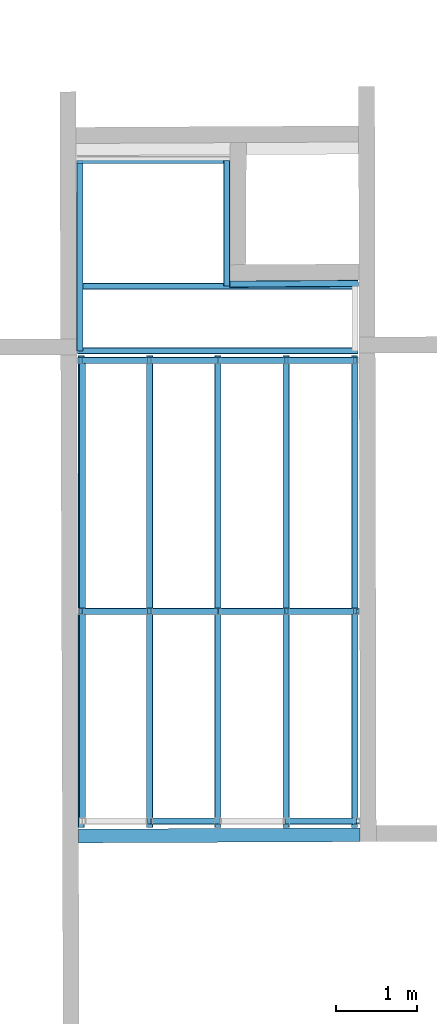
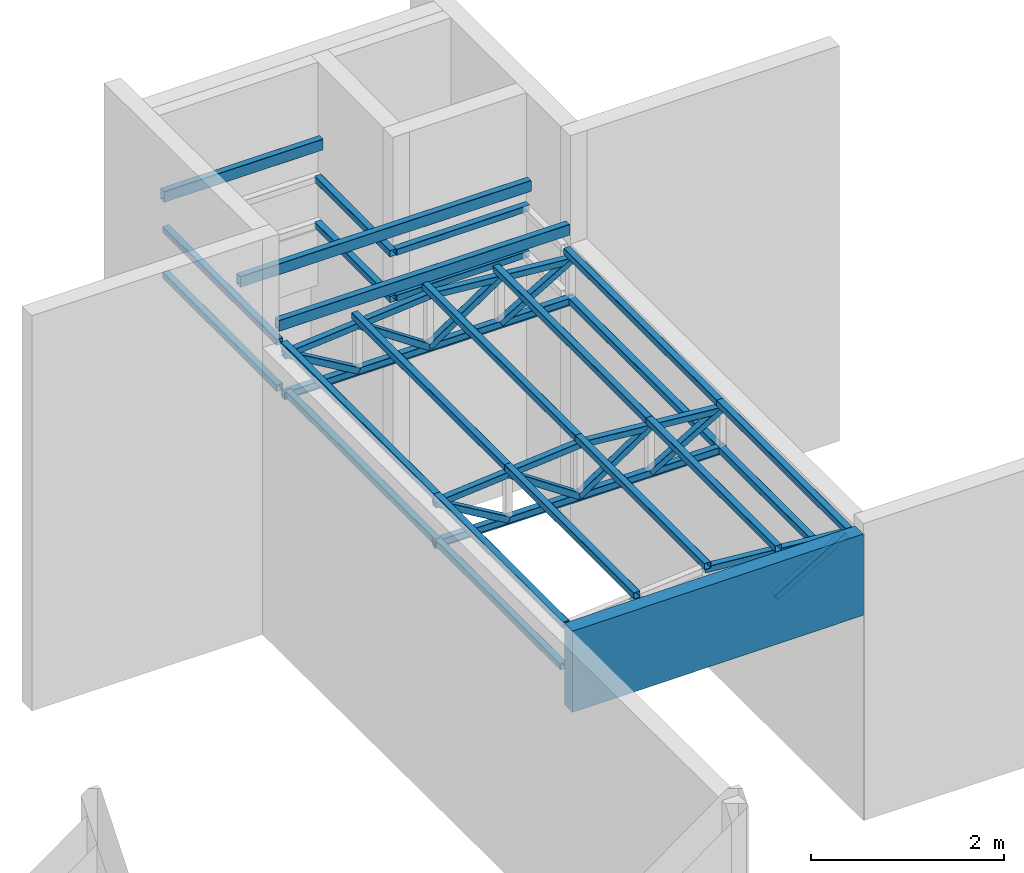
# One storey, part 4 of 9: 43 beams, 43 elements without a shape of their own.
"""IFC2X3 building model written with IfcOpenShell, lengths in millimetres."""

from ifc_helpers import new_model, si_unit, frame, origin_with_axes, origin_2d_with_axis, place, context, subcontext, project, spatial, rectangle, hollow_rectangle, u_section, extrude, material, type_object, element, aggregate, save


model = new_model("IFC2X3")

# Units and contexts
model_context = context("Model", 3, precision=1e-05, world=origin_with_axes())
body_context = subcontext(model_context, "Body", "Model", "MODEL_VIEW")
ifc_project = project(units=[si_unit("LENGTHUNIT", "METRE", prefix="MILLI"), si_unit("AREAUNIT", "SQUARE_METRE"), si_unit("VOLUMEUNIT", "CUBIC_METRE"), si_unit("MASSUNIT", "GRAM", prefix="KILO"), si_unit("TIMEUNIT", "SECOND"), si_unit("PLANEANGLEUNIT", "RADIAN"), si_unit("SOLIDANGLEUNIT", "STERADIAN"), si_unit("THERMODYNAMICTEMPERATUREUNIT", "DEGREE_CELSIUS"), si_unit("LUMINOUSINTENSITYUNIT", "LUMEN")], contexts=[model_context])

# Site, building, storey
site_placement = place(None, origin_with_axes())
site = spatial("IfcSite", under=ifc_project, at=site_placement, Name="01_26-05_PRO_BOULAZAC_CMA-FORMATION", CompositionType="ELEMENT")
building_placement = place(site_placement, origin_with_axes())
building = spatial("IfcBuilding", under=site, at=building_placement, Name="Undefined", CompositionType="ELEMENT")
storey_placement = place(building_placement, origin_with_axes())
storey = spatial("IfcBuildingStorey", under=building, at=storey_placement, Name="Undefined", CompositionType="ELEMENT", Elevation=0.0)

# Assembly, beam
assembly_1_placement = place(storey_placement, origin_with_axes())
assembly_1 = element("IfcElementAssembly", 1, at=assembly_1_placement, inside=storey, Name="OMEGA", AssemblyPlace="NOTDEFINED", PredefinedType="NOTDEFINED")
ifc_material_1 = material(Name="STEEL/S235JR")
beam_type_1 = type_object("IfcBeamType", Name="C40*30*2", PredefinedType="NOTDEFINED")
beam_1_placement = place(assembly_1_placement, frame((20776.849700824, 13770.0000000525, 2955.0), z_axis=(0.0, 1.0, 0.0), x_axis=(-1.0, 0.0, 0.0)))
beam_1 = element("IfcBeam", 2, at=beam_1_placement, type_object=beam_type_1, material=ifc_material_1, Name="OMEGA", context=body_context, shape_type="SweptSolid", body=[
    extrude(u_section(Depth=40.0, FlangeWidth=30.0, WebThickness=2.0, FlangeThickness=2.0, FilletRadius=3.0, at=origin_2d_with_axis()), frame((3479.99999999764, 0.0, 0.0), z_axis=(-1.0, 0.0, 0.0), x_axis=(0.0, -1.0, 0.0)), (0.0, 0.0, 1.0), 3480.0),
])
aggregate(assembly_1, [beam_1])

assembly_2_placement = place(storey_placement, origin_with_axes())
assembly_2 = element("IfcElementAssembly", 3, at=assembly_2_placement, inside=storey, Name="OMEGA", AssemblyPlace="NOTDEFINED", PredefinedType="NOTDEFINED")
beam_2_placement = place(assembly_2_placement, frame((20786.8497008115, 10660.0000000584, 2955.0), z_axis=(0.0, 1.0, 0.0), x_axis=(-1.0, 0.0, 0.0)))
beam_2 = element("IfcBeam", 4, at=beam_2_placement, type_object=beam_type_1, material=ifc_material_1, Name="OMEGA", context=body_context, shape_type="SweptSolid", body=[
    extrude(u_section(Depth=40.0, FlangeWidth=30.0, WebThickness=2.0, FlangeThickness=2.0, FilletRadius=3.0, at=origin_2d_with_axis()), frame((3479.99999999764, 0.0, 0.0), z_axis=(-1.0, 0.0, 0.0), x_axis=(0.0, -1.0, 0.0)), (0.0, 0.0, 1.0), 3480.0),
])
aggregate(assembly_2, [beam_2])

assembly_3_placement = place(storey_placement, origin_with_axes())
assembly_3 = element("IfcElementAssembly", 5, at=assembly_3_placement, inside=storey, Name="LISSE", AssemblyPlace="NOTDEFINED", PredefinedType="NOTDEFINED")
beam_type_2 = type_object("IfcBeamType", Name="TUBE-C-80*80*3", PredefinedType="NOTDEFINED")
beam_3_placement = place(assembly_3_placement, frame((20777.0939797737, 14725.5298231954, 3589.99999999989), z_axis=(-0.00610697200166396, 0.999981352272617, 0.0), x_axis=(-0.999981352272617, -0.00610697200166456, 0.0)))
beam_3 = element("IfcBeam", 6, at=beam_3_placement, type_object=beam_type_2, material=ifc_material_1, Name="LISSE", context=body_context, shape_type="SweptSolid", body=[
    extrude(hollow_rectangle(XDim=80.0, YDim=80.0, WallThickness=3.0, InnerFilletRadius=3.0, OuterFilletRadius=6.0, at=origin_2d_with_axis()), frame((1595.61294489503, 4.54747350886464e-13, 0.0), z_axis=(-1.0, 0.0, 0.0), x_axis=(0.0, -1.0, 0.0)), (0.0, 0.0, 1.0), 1595.61),
])
aggregate(assembly_3, [beam_3])

assembly_4_placement = place(storey_placement, origin_with_axes())
assembly_4 = element("IfcElementAssembly", 7, at=assembly_4_placement, inside=storey, Name="LISSE", AssemblyPlace="NOTDEFINED", PredefinedType="NOTDEFINED")
beam_4_placement = place(assembly_4_placement, frame((20777.0939797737, 14725.5298231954, 3009.99999999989), z_axis=(-0.00610697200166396, 0.999981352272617, 0.0), x_axis=(-0.999981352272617, -0.00610697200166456, 0.0)))
beam_4 = element("IfcBeam", 8, at=beam_4_placement, type_object=beam_type_2, material=ifc_material_1, Name="LISSE", context=body_context, shape_type="SweptSolid", body=[
    extrude(hollow_rectangle(XDim=80.0, YDim=80.0, WallThickness=3.0, InnerFilletRadius=3.0, OuterFilletRadius=6.0, at=origin_2d_with_axis()), frame((1595.61294489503, 4.54747350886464e-13, 0.0), z_axis=(-1.0, 0.0, 0.0), x_axis=(0.0, -1.0, 0.0)), (0.0, 0.0, 1.0), 1595.61),
])
aggregate(assembly_4, [beam_4])

assembly_5_placement = place(storey_placement, origin_with_axes())
assembly_5 = element("IfcElementAssembly", 9, at=assembly_5_placement, inside=storey, Name="LISSE", AssemblyPlace="NOTDEFINED", PredefinedType="NOTDEFINED")
beam_5_placement = place(assembly_5_placement, frame((19146.8497008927, 14690.0000000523, 3589.99999999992), z_axis=(1.0, 0.0, 0.0), x_axis=(0.0, 1.0, 0.0)))
beam_5 = element("IfcBeam", 10, at=beam_5_placement, type_object=beam_type_2, material=ifc_material_1, Name="LISSE", context=body_context, shape_type="SweptSolid", body=[
    extrude(hollow_rectangle(XDim=80.0, YDim=80.0, WallThickness=3.0, InnerFilletRadius=3.0, OuterFilletRadius=6.0, at=origin_2d_with_axis()), frame((1559.99999999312, 0.0, 0.0), z_axis=(-1.0, 0.0, 0.0), x_axis=(0.0, -1.0, 0.0)), (0.0, 0.0, 1.0), 1560.0),
])
aggregate(assembly_5, [beam_5])

assembly_6_placement = place(storey_placement, origin_with_axes())
assembly_6 = element("IfcElementAssembly", 11, at=assembly_6_placement, inside=storey, Name="LISSE", AssemblyPlace="NOTDEFINED", PredefinedType="NOTDEFINED")
beam_6_placement = place(assembly_6_placement, frame((17326.8497008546, 16250.0000000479, 3590.0), z_axis=(-1.0, 0.0, 0.0), x_axis=(0.0, -1.0, 0.0)))
beam_6 = element("IfcBeam", 12, at=beam_6_placement, type_object=beam_type_2, material=ifc_material_1, Name="LISSE", context=body_context, shape_type="SweptSolid", body=[
    extrude(hollow_rectangle(XDim=80.0, YDim=80.0, WallThickness=3.0, InnerFilletRadius=3.0, OuterFilletRadius=6.0, at=origin_2d_with_axis()), frame((2359.99999994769, 0.0, 0.0), z_axis=(-1.0, 0.0, 0.0), x_axis=(0.0, -1.0, 0.0)), (0.0, 0.0, 1.0), 2360.0),
])
aggregate(assembly_6, [beam_6])

assembly_7_placement = place(storey_placement, origin_with_axes())
assembly_7 = element("IfcElementAssembly", 13, at=assembly_7_placement, inside=storey, Name="LISSE", AssemblyPlace="NOTDEFINED", PredefinedType="NOTDEFINED")
beam_7_placement = place(assembly_7_placement, frame((19146.8497008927, 14690.0000000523, 3009.99999999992), z_axis=(1.0, 0.0, 0.0), x_axis=(0.0, 1.0, 0.0)))
beam_7 = element("IfcBeam", 14, at=beam_7_placement, type_object=beam_type_2, material=ifc_material_1, Name="LISSE", context=body_context, shape_type="SweptSolid", body=[
    extrude(hollow_rectangle(XDim=80.0, YDim=80.0, WallThickness=3.0, InnerFilletRadius=3.0, OuterFilletRadius=6.0, at=origin_2d_with_axis()), frame((1559.99999999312, 0.0, 0.0), z_axis=(-1.0, 0.0, 0.0), x_axis=(0.0, -1.0, 0.0)), (0.0, 0.0, 1.0), 1560.0),
])
aggregate(assembly_7, [beam_7])

assembly_8_placement = place(storey_placement, origin_with_axes())
assembly_8 = element("IfcElementAssembly", 15, at=assembly_8_placement, inside=storey, Name="LISSE", AssemblyPlace="NOTDEFINED", PredefinedType="NOTDEFINED")
beam_8_placement = place(assembly_8_placement, frame((17326.8497008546, 16250.0000000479, 3010.0), z_axis=(-1.0, 0.0, 0.0), x_axis=(0.0, -1.0, 0.0)))
beam_8 = element("IfcBeam", 16, at=beam_8_placement, type_object=beam_type_2, material=ifc_material_1, Name="LISSE", context=body_context, shape_type="SweptSolid", body=[
    extrude(hollow_rectangle(XDim=80.0, YDim=80.0, WallThickness=3.0, InnerFilletRadius=3.0, OuterFilletRadius=6.0, at=origin_2d_with_axis()), frame((2359.99999994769, 0.0, 0.0), z_axis=(-1.0, 0.0, 0.0), x_axis=(0.0, -1.0, 0.0)), (0.0, 0.0, 1.0), 2360.0),
])
aggregate(assembly_8, [beam_8])

assembly_9_placement = place(storey_placement, origin_with_axes())
assembly_9 = element("IfcElementAssembly", 17, at=assembly_9_placement, inside=storey, AssemblyPlace="NOTDEFINED", PredefinedType="NOTDEFINED")
beam_9_placement = place(assembly_9_placement, frame((19883.6151950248, 10660.0, 3664.08240023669), z_axis=(0.0, 0.0, 1.0), x_axis=(0.0, 1.0, 0.0)))
beam_9 = element("IfcBeam", 18, at=beam_9_placement, type_object=beam_type_2, material=ifc_material_1, Name="PANNE", context=body_context, shape_type="SweptSolid", body=[
    extrude(hollow_rectangle(XDim=80.0, YDim=80.0, WallThickness=3.0, InnerFilletRadius=3.0, OuterFilletRadius=6.0, at=origin_2d_with_axis()), frame((3170.0, 0.0, 0.0), z_axis=(-1.0, 0.0, 0.0), x_axis=(0.0, -1.0, 0.0)), (0.0, 0.0, 1.0), 3170.0),
])
aggregate(assembly_9, [beam_9])

assembly_10_placement = place(storey_placement, origin_with_axes())
assembly_10 = element("IfcElementAssembly", 19, at=assembly_10_placement, inside=storey, AssemblyPlace="NOTDEFINED", PredefinedType="NOTDEFINED")
beam_10_placement = place(assembly_10_placement, frame((19883.6151950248, 7980.00000000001, 3664.08240023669), z_axis=(0.0, 0.0, 1.0), x_axis=(0.0, 1.0, 0.0)))
beam_10 = element("IfcBeam", 20, at=beam_10_placement, type_object=beam_type_2, material=ifc_material_1, Name="PANNE", context=body_context, shape_type="SweptSolid", body=[
    extrude(hollow_rectangle(XDim=80.0, YDim=80.0, WallThickness=3.0, InnerFilletRadius=3.0, OuterFilletRadius=6.0, at=origin_2d_with_axis()), frame((2680.0, 0.0, 0.0), z_axis=(-1.0, 0.0, 0.0), x_axis=(0.0, -1.0, 0.0)), (0.0, 0.0, 1.0), 2680.0),
])
aggregate(assembly_10, [beam_10])

assembly_11_placement = place(storey_placement, origin_with_axes())
assembly_11 = element("IfcElementAssembly", 21, at=assembly_11_placement, inside=storey, AssemblyPlace="NOTDEFINED", PredefinedType="NOTDEFINED")
beam_11_placement = place(assembly_11_placement, frame((18190.0842080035, 10660.0, 3664.08238662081), z_axis=(0.0, 0.0, 1.0), x_axis=(0.0, 1.0, 0.0)))
beam_11 = element("IfcBeam", 22, at=beam_11_placement, type_object=beam_type_2, material=ifc_material_1, Name="PANNE", context=body_context, shape_type="SweptSolid", body=[
    extrude(hollow_rectangle(XDim=80.0, YDim=80.0, WallThickness=3.0, InnerFilletRadius=3.0, OuterFilletRadius=6.0, at=origin_2d_with_axis()), frame((3170.0, 0.0, 0.0), z_axis=(-1.0, 0.0, 0.0), x_axis=(0.0, -1.0, 0.0)), (0.0, 0.0, 1.0), 3170.0),
])
aggregate(assembly_11, [beam_11])

assembly_12_placement = place(storey_placement, origin_with_axes())
assembly_12 = element("IfcElementAssembly", 23, at=assembly_12_placement, inside=storey, AssemblyPlace="NOTDEFINED", PredefinedType="NOTDEFINED")
beam_12_placement = place(assembly_12_placement, frame((18190.0842080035, 7980.0, 3664.08238662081), z_axis=(0.0, 0.0, 1.0), x_axis=(0.0, 1.0, 0.0)))
beam_12 = element("IfcBeam", 24, at=beam_12_placement, type_object=beam_type_2, material=ifc_material_1, Name="PANNE", context=body_context, shape_type="SweptSolid", body=[
    extrude(hollow_rectangle(XDim=80.0, YDim=80.0, WallThickness=3.0, InnerFilletRadius=3.0, OuterFilletRadius=6.0, at=origin_2d_with_axis()), frame((2680.0, 0.0, 0.0), z_axis=(-1.0, 0.0, 0.0), x_axis=(0.0, -1.0, 0.0)), (0.0, 0.0, 1.0), 2680.0),
])
aggregate(assembly_12, [beam_12])

assembly_13_placement = place(storey_placement, origin_with_axes())
assembly_13 = element("IfcElementAssembly", 25, at=assembly_13_placement, inside=storey, Name="LISSE", AssemblyPlace="NOTDEFINED", PredefinedType="NOTDEFINED")
beam_13_placement = place(assembly_13_placement, frame((20736.8497009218, 10660.0, 3010.0), z_axis=(1.0, 0.0, 0.0), x_axis=(0.0, 1.0, 0.0)))
beam_13 = element("IfcBeam", 26, at=beam_13_placement, type_object=beam_type_2, material=ifc_material_1, Name="LISSE", context=body_context, shape_type="SweptSolid", body=[
    extrude(hollow_rectangle(XDim=80.0, YDim=80.0, WallThickness=3.0, InnerFilletRadius=3.0, OuterFilletRadius=6.0, at=origin_2d_with_axis()), frame((3110.0, 0.0, 0.0), z_axis=(-1.0, 0.0, 0.0), x_axis=(0.0, -1.0, 0.0)), (0.0, 0.0, 1.0), 3110.0),
])
aggregate(assembly_13, [beam_13])

assembly_14_placement = place(storey_placement, origin_with_axes())
assembly_14 = element("IfcElementAssembly", 27, at=assembly_14_placement, inside=storey, Name="LISSE", AssemblyPlace="NOTDEFINED", PredefinedType="NOTDEFINED")
beam_14_placement = place(assembly_14_placement, frame((20736.8497009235, 8060.00000000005, 3010.0), z_axis=(1.0, 0.0, 0.0), x_axis=(0.0, 1.0, 0.0)))
beam_14 = element("IfcBeam", 28, at=beam_14_placement, type_object=beam_type_2, material=ifc_material_1, Name="LISSE", context=body_context, shape_type="SweptSolid", body=[
    extrude(hollow_rectangle(XDim=80.0, YDim=80.0, WallThickness=3.0, InnerFilletRadius=3.0, OuterFilletRadius=6.0, at=origin_2d_with_axis()), frame((2600.0, 0.0, 0.0), z_axis=(-1.0, 0.0, 0.0), x_axis=(0.0, -1.0, 0.0)), (0.0, 0.0, 1.0), 2600.0),
])
aggregate(assembly_14, [beam_14])

assembly_15_placement = place(storey_placement, origin_with_axes())
assembly_15 = element("IfcElementAssembly", 29, at=assembly_15_placement, inside=storey, Name="LISSE", AssemblyPlace="NOTDEFINED", PredefinedType="NOTDEFINED")
beam_15_placement = place(assembly_15_placement, frame((17356.8497009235, 10660.0, 3010.0), z_axis=(-1.0, 0.0, 0.0), x_axis=(0.0, -1.0, 0.0)))
beam_15 = element("IfcBeam", 30, at=beam_15_placement, type_object=beam_type_2, material=ifc_material_1, Name="LISSE", context=body_context, shape_type="SweptSolid", body=[
    extrude(hollow_rectangle(XDim=80.0, YDim=80.0, WallThickness=3.0, InnerFilletRadius=3.0, OuterFilletRadius=6.0, at=origin_2d_with_axis()), frame((2600.0, 0.0, 0.0), z_axis=(-1.0, 0.0, 0.0), x_axis=(0.0, -1.0, 0.0)), (0.0, 0.0, 1.0), 2600.0),
])
aggregate(assembly_15, [beam_15])

assembly_16_placement = place(storey_placement, origin_with_axes())
assembly_16 = element("IfcElementAssembly", 31, at=assembly_16_placement, inside=storey, Name="LISSE", AssemblyPlace="NOTDEFINED", PredefinedType="NOTDEFINED")
beam_16_placement = place(assembly_16_placement, frame((17356.8497009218, 13769.9999999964, 3010.0), z_axis=(-1.0, 0.0, 0.0), x_axis=(0.0, -1.0, 0.0)))
beam_16 = element("IfcBeam", 32, at=beam_16_placement, type_object=beam_type_2, material=ifc_material_1, Name="LISSE", context=body_context, shape_type="SweptSolid", body=[
    extrude(hollow_rectangle(XDim=80.0, YDim=80.0, WallThickness=3.0, InnerFilletRadius=3.0, OuterFilletRadius=6.0, at=origin_2d_with_axis()), frame((3110.0, 0.0, 0.0), z_axis=(-1.0, 0.0, 0.0), x_axis=(0.0, -1.0, 0.0)), (0.0, 0.0, 1.0), 3110.0),
])
aggregate(assembly_16, [beam_16])

assembly_17_placement = place(storey_placement, origin_with_axes())
assembly_17 = element("IfcElementAssembly", 33, at=assembly_17_placement, inside=storey, AssemblyPlace="NOTDEFINED", PredefinedType="NOTDEFINED")
beam_17_placement = place(assembly_17_placement, frame((20730.3806891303, 10660.0, 3590.00002715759), z_axis=(0.0, 0.0, 1.0), x_axis=(0.0, 1.0, 0.0)))
beam_17 = element("IfcBeam", 34, at=beam_17_placement, type_object=beam_type_2, material=ifc_material_1, Name="PANNE", context=body_context, shape_type="SweptSolid", body=[
    extrude(hollow_rectangle(XDim=80.0, YDim=80.0, WallThickness=3.0, InnerFilletRadius=3.0, OuterFilletRadius=6.0, at=origin_2d_with_axis()), frame((3170.0, 0.0, 0.0), z_axis=(-1.0, 0.0, 0.0), x_axis=(0.0, -1.0, 0.0)), (0.0, 0.0, 1.0), 3170.0),
])
aggregate(assembly_17, [beam_17])

assembly_18_placement = place(storey_placement, origin_with_axes())
assembly_18 = element("IfcElementAssembly", 35, at=assembly_18_placement, inside=storey, AssemblyPlace="NOTDEFINED", PredefinedType="NOTDEFINED")
beam_18_placement = place(assembly_18_placement, frame((20730.3806891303, 7980.0, 3590.00002715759), z_axis=(0.0, 0.0, 1.0), x_axis=(0.0, 1.0, 0.0)))
beam_18 = element("IfcBeam", 36, at=beam_18_placement, type_object=beam_type_2, material=ifc_material_1, Name="PANNE", context=body_context, shape_type="SweptSolid", body=[
    extrude(hollow_rectangle(XDim=80.0, YDim=80.0, WallThickness=3.0, InnerFilletRadius=3.0, OuterFilletRadius=6.0, at=origin_2d_with_axis()), frame((2680.0, 0.0, 0.0), z_axis=(-1.0, 0.0, 0.0), x_axis=(0.0, -1.0, 0.0)), (0.0, 0.0, 1.0), 2680.0),
])
aggregate(assembly_18, [beam_18])

assembly_19_placement = place(storey_placement, origin_with_axes())
assembly_19 = element("IfcElementAssembly", 37, at=assembly_19_placement, inside=storey, AssemblyPlace="NOTDEFINED", PredefinedType="NOTDEFINED")
beam_19_placement = place(assembly_19_placement, frame((17343.3187150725, 10660.0, 3590.0), z_axis=(0.0, 0.0, 1.0), x_axis=(0.0, 1.0, 0.0)))
beam_19 = element("IfcBeam", 38, at=beam_19_placement, type_object=beam_type_2, material=ifc_material_1, Name="PANNE", context=body_context, shape_type="SweptSolid", body=[
    extrude(hollow_rectangle(XDim=80.0, YDim=80.0, WallThickness=3.0, InnerFilletRadius=3.0, OuterFilletRadius=6.0, at=origin_2d_with_axis()), frame((3170.0, 0.0, 0.0), z_axis=(-1.0, 0.0, 0.0), x_axis=(0.0, -1.0, 0.0)), (0.0, 0.0, 1.0), 3170.0),
])
aggregate(assembly_19, [beam_19])

assembly_20_placement = place(storey_placement, origin_with_axes())
assembly_20 = element("IfcElementAssembly", 39, at=assembly_20_placement, inside=storey, AssemblyPlace="NOTDEFINED", PredefinedType="NOTDEFINED")
beam_20_placement = place(assembly_20_placement, frame((17343.3187150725, 7980.0, 3590.0), z_axis=(0.0, 0.0, 1.0), x_axis=(0.0, 1.0, 0.0)))
beam_20 = element("IfcBeam", 40, at=beam_20_placement, type_object=beam_type_2, material=ifc_material_1, Name="PANNE", context=body_context, shape_type="SweptSolid", body=[
    extrude(hollow_rectangle(XDim=80.0, YDim=80.0, WallThickness=3.0, InnerFilletRadius=3.0, OuterFilletRadius=6.0, at=origin_2d_with_axis()), frame((2680.0, 0.0, 0.0), z_axis=(-1.0, 0.0, 0.0), x_axis=(0.0, -1.0, 0.0)), (0.0, 0.0, 1.0), 2680.0),
])
aggregate(assembly_20, [beam_20])

assembly_21_placement = place(storey_placement, origin_with_axes())
assembly_21 = element("IfcElementAssembly", 41, at=assembly_21_placement, inside=storey, AssemblyPlace="NOTDEFINED", PredefinedType="NOTDEFINED")
beam_21_placement = place(assembly_21_placement, frame((19036.8497009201, 10660.0, 3738.16477324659), z_axis=(0.0, 0.0, 1.0), x_axis=(0.0, 1.0, 0.0)))
beam_21 = element("IfcBeam", 42, at=beam_21_placement, type_object=beam_type_2, material=ifc_material_1, Name="PANNE", context=body_context, shape_type="SweptSolid", body=[
    extrude(hollow_rectangle(XDim=80.0, YDim=80.0, WallThickness=3.0, InnerFilletRadius=3.0, OuterFilletRadius=6.0, at=origin_2d_with_axis()), frame((3170.0, 0.0, 0.0), z_axis=(-1.0, 0.0, 0.0), x_axis=(0.0, -1.0, 0.0)), (0.0, 0.0, 1.0), 3170.0),
])
aggregate(assembly_21, [beam_21])

assembly_22_placement = place(storey_placement, origin_with_axes())
assembly_22 = element("IfcElementAssembly", 43, at=assembly_22_placement, inside=storey, AssemblyPlace="NOTDEFINED", PredefinedType="NOTDEFINED")
beam_22_placement = place(assembly_22_placement, frame((19036.8497009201, 7980.0, 3738.16477324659), z_axis=(0.0, 0.0, 1.0), x_axis=(0.0, 1.0, 0.0)))
beam_22 = element("IfcBeam", 44, at=beam_22_placement, type_object=beam_type_2, material=ifc_material_1, Name="PANNE", context=body_context, shape_type="SweptSolid", body=[
    extrude(hollow_rectangle(XDim=80.0, YDim=80.0, WallThickness=3.0, InnerFilletRadius=3.0, OuterFilletRadius=6.0, at=origin_2d_with_axis()), frame((2680.0, 0.0, 0.0), z_axis=(-1.0, 0.0, 0.0), x_axis=(0.0, -1.0, 0.0)), (0.0, 0.0, 1.0), 2680.0),
])
aggregate(assembly_22, [beam_22])

assembly_23_placement = place(storey_placement, origin_with_axes())
assembly_23 = element("IfcElementAssembly", 45, at=assembly_23_placement, inside=storey, Name="TREILLIS", AssemblyPlace="NOTDEFINED", PredefinedType="NOTDEFINED")
beam_23_placement = place(assembly_23_placement, frame((17296.8497008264, 13770.0000000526, 3010.0), z_axis=(0.0, 0.0, 1.0), x_axis=(1.0, 0.0, 0.0)))
beam_23 = element("IfcBeam", 46, at=beam_23_placement, type_object=beam_type_2, material=ifc_material_1, Name="TREILLIS", context=body_context, shape_type="SweptSolid", body=[
    extrude(hollow_rectangle(XDim=80.0, YDim=80.0, WallThickness=3.0, InnerFilletRadius=3.0, OuterFilletRadius=6.0, at=origin_2d_with_axis()), frame((3479.99999999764, 0.0, 0.0), z_axis=(-1.0, 0.0, 0.0), x_axis=(0.0, -1.0, 0.0)), (0.0, 0.0, 1.0), 3480.0),
])
aggregate(assembly_23, [beam_23])

assembly_24_placement = place(storey_placement, origin_with_axes())
assembly_24 = element("IfcElementAssembly", 47, at=assembly_24_placement, inside=storey, Name="TREILLIS", AssemblyPlace="NOTDEFINED", PredefinedType="NOTDEFINED")
beam_24_placement = place(assembly_24_placement, frame((17306.8497008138, 10660.0000000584, 3010.0), z_axis=(0.0, 0.0, 1.0), x_axis=(1.0, 0.0, 0.0)))
beam_24 = element("IfcBeam", 48, at=beam_24_placement, type_object=beam_type_2, material=ifc_material_1, Name="TREILLIS", context=body_context, shape_type="SweptSolid", body=[
    extrude(hollow_rectangle(XDim=80.0, YDim=80.0, WallThickness=3.0, InnerFilletRadius=3.0, OuterFilletRadius=6.0, at=origin_2d_with_axis()), frame((3479.99999999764, 0.0, 0.0), z_axis=(-1.0, 0.0, 0.0), x_axis=(0.0, -1.0, 0.0)), (0.0, 0.0, 1.0), 3480.0),
])
aggregate(assembly_24, [beam_24])

assembly_25_placement = place(storey_placement, origin_with_axes())
assembly_25 = element("IfcElementAssembly", 49, at=assembly_25_placement, inside=storey, Name="TREILLIS", AssemblyPlace="NOTDEFINED", PredefinedType="NOTDEFINED")
beam_25_placement = place(assembly_25_placement, frame((20736.8497008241, 13770.0000000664, 3509.2812685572), z_axis=(-0.506478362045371, 0.0, 0.862252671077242), x_axis=(-0.862252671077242, 0.0, -0.506478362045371)))
beam_25 = element("IfcBeam", 50, at=beam_25_placement, type_object=beam_type_2, material=ifc_material_1, Name="TREILLIS", context=body_context, shape_type="SweptSolid", body=[
    extrude(hollow_rectangle(XDim=80.0, YDim=80.0, WallThickness=3.0, InnerFilletRadius=3.0, OuterFilletRadius=6.0, at=origin_2d_with_axis()), frame((985.789929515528, 0.0, 5.47223338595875e-14), z_axis=(-1.0, 0.0, 0.0), x_axis=(0.0, -1.0, 0.0)), (0.0, 0.0, 1.0), 985.79),
])
aggregate(assembly_25, [beam_25])

assembly_26_placement = place(storey_placement, origin_with_axes())
assembly_26 = element("IfcElementAssembly", 51, at=assembly_26_placement, inside=storey, Name="TREILLIS", AssemblyPlace="NOTDEFINED", PredefinedType="NOTDEFINED")
beam_26_placement = place(assembly_26_placement, frame((19886.8497008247, 13770.000000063, 3583.64662416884), z_axis=(-0.559403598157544, 0.0, 0.828895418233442), x_axis=(-0.828895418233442, 0.0, -0.559403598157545)))
beam_26 = element("IfcBeam", 52, at=beam_26_placement, type_object=beam_type_2, material=ifc_material_1, Name="TREILLIS", context=body_context, shape_type="SweptSolid", body=[
    extrude(hollow_rectangle(XDim=80.0, YDim=80.0, WallThickness=3.0, InnerFilletRadius=3.0, OuterFilletRadius=6.0, at=origin_2d_with_axis()), frame((1025.46109069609, 1.81898940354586e-12, 0.0), z_axis=(-1.0, 0.0, 0.0), x_axis=(0.0, -1.0, 0.0)), (0.0, 0.0, 1.0), 1025.46),
])
aggregate(assembly_26, [beam_26])

assembly_27_placement = place(storey_placement, origin_with_axes())
assembly_27 = element("IfcElementAssembly", 53, at=assembly_27_placement, inside=storey, Name="TREILLIS", AssemblyPlace="NOTDEFINED", PredefinedType="NOTDEFINED")
beam_27_placement = place(assembly_27_placement, frame((18186.8497008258, 13770.0000000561, 3583.64661038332), z_axis=(0.559403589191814, 0.0, 0.82889542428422), x_axis=(0.82889542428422, 0.0, -0.559403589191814)))
beam_27 = element("IfcBeam", 54, at=beam_27_placement, type_object=beam_type_2, material=ifc_material_1, Name="TREILLIS", context=body_context, shape_type="SweptSolid", body=[
    extrude(hollow_rectangle(XDim=80.0, YDim=80.0, WallThickness=3.0, InnerFilletRadius=3.0, OuterFilletRadius=6.0, at=origin_2d_with_axis()), frame((1025.46109069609, 1.81898940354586e-12, 0.0), z_axis=(-1.0, 0.0, 0.0), x_axis=(0.0, -1.0, 0.0)), (0.0, 0.0, 1.0), 1025.46),
])
aggregate(assembly_27, [beam_27])

assembly_28_placement = place(storey_placement, origin_with_axes())
assembly_28 = element("IfcElementAssembly", 55, at=assembly_28_placement, inside=storey, Name="TREILLIS", AssemblyPlace="NOTDEFINED", PredefinedType="NOTDEFINED")
beam_28_placement = place(assembly_28_placement, frame((17336.8497008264, 13770.0000000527, 3509.28124104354), z_axis=(0.506478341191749, 0.0, 0.862252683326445), x_axis=(0.862252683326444, 0.0, -0.50647834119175)))
beam_28 = element("IfcBeam", 56, at=beam_28_placement, type_object=beam_type_2, material=ifc_material_1, Name="TREILLIS", context=body_context, shape_type="SweptSolid", body=[
    extrude(hollow_rectangle(XDim=80.0, YDim=80.0, WallThickness=3.0, InnerFilletRadius=3.0, OuterFilletRadius=6.0, at=origin_2d_with_axis()), frame((985.789929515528, 0.0, 5.47223338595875e-14), z_axis=(-1.0, 0.0, 0.0), x_axis=(0.0, -1.0, 0.0)), (0.0, 0.0, 1.0), 985.79),
])
aggregate(assembly_28, [beam_28])

assembly_29_placement = place(storey_placement, origin_with_axes())
assembly_29 = element("IfcElementAssembly", 57, at=assembly_29_placement, inside=storey, Name="TREILLIS", AssemblyPlace="NOTDEFINED", PredefinedType="NOTDEFINED")
beam_29_placement = place(assembly_29_placement, frame((20736.8497008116, 10660.0000000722, 3509.2812685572), z_axis=(-0.506478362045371, 0.0, 0.862252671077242), x_axis=(-0.862252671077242, 0.0, -0.506478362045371)))
beam_29 = element("IfcBeam", 58, at=beam_29_placement, type_object=beam_type_2, material=ifc_material_1, Name="TREILLIS", context=body_context, shape_type="SweptSolid", body=[
    extrude(hollow_rectangle(XDim=80.0, YDim=80.0, WallThickness=3.0, InnerFilletRadius=3.0, OuterFilletRadius=6.0, at=origin_2d_with_axis()), frame((985.789929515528, 0.0, 5.47223338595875e-14), z_axis=(-1.0, 0.0, 0.0), x_axis=(0.0, -1.0, 0.0)), (0.0, 0.0, 1.0), 985.79),
])
aggregate(assembly_29, [beam_29])

assembly_30_placement = place(storey_placement, origin_with_axes())
assembly_30 = element("IfcElementAssembly", 59, at=assembly_30_placement, inside=storey, Name="TREILLIS", AssemblyPlace="NOTDEFINED", PredefinedType="NOTDEFINED")
beam_30_placement = place(assembly_30_placement, frame((19886.8497008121, 10660.0000000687, 3583.64662416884), z_axis=(-0.559403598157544, 0.0, 0.828895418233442), x_axis=(-0.828895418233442, 0.0, -0.559403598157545)))
beam_30 = element("IfcBeam", 60, at=beam_30_placement, type_object=beam_type_2, material=ifc_material_1, Name="TREILLIS", context=body_context, shape_type="SweptSolid", body=[
    extrude(hollow_rectangle(XDim=80.0, YDim=80.0, WallThickness=3.0, InnerFilletRadius=3.0, OuterFilletRadius=6.0, at=origin_2d_with_axis()), frame((1025.46109069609, 1.81898940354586e-12, 0.0), z_axis=(-1.0, 0.0, 0.0), x_axis=(0.0, -1.0, 0.0)), (0.0, 0.0, 1.0), 1025.46),
])
aggregate(assembly_30, [beam_30])

assembly_31_placement = place(storey_placement, origin_with_axes())
assembly_31 = element("IfcElementAssembly", 61, at=assembly_31_placement, inside=storey, Name="TREILLIS", AssemblyPlace="NOTDEFINED", PredefinedType="NOTDEFINED")
beam_31_placement = place(assembly_31_placement, frame((18186.8497008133, 10660.0000000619, 3583.64661038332), z_axis=(0.559403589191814, 0.0, 0.82889542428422), x_axis=(0.82889542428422, 0.0, -0.559403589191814)))
beam_31 = element("IfcBeam", 62, at=beam_31_placement, type_object=beam_type_2, material=ifc_material_1, Name="TREILLIS", context=body_context, shape_type="SweptSolid", body=[
    extrude(hollow_rectangle(XDim=80.0, YDim=80.0, WallThickness=3.0, InnerFilletRadius=3.0, OuterFilletRadius=6.0, at=origin_2d_with_axis()), frame((1025.46109069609, 1.81898940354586e-12, 0.0), z_axis=(-1.0, 0.0, 0.0), x_axis=(0.0, -1.0, 0.0)), (0.0, 0.0, 1.0), 1025.46),
])
aggregate(assembly_31, [beam_31])

assembly_32_placement = place(storey_placement, origin_with_axes())
assembly_32 = element("IfcElementAssembly", 63, at=assembly_32_placement, inside=storey, Name="TREILLIS", AssemblyPlace="NOTDEFINED", PredefinedType="NOTDEFINED")
beam_32_placement = place(assembly_32_placement, frame((17336.8497008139, 10660.0000000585, 3509.28124104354), z_axis=(0.506478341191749, 0.0, 0.862252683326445), x_axis=(0.862252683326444, 0.0, -0.50647834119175)))
beam_32 = element("IfcBeam", 64, at=beam_32_placement, type_object=beam_type_2, material=ifc_material_1, Name="TREILLIS", context=body_context, shape_type="SweptSolid", body=[
    extrude(hollow_rectangle(XDim=80.0, YDim=80.0, WallThickness=3.0, InnerFilletRadius=3.0, OuterFilletRadius=6.0, at=origin_2d_with_axis()), frame((985.789929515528, 0.0, 5.47223338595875e-14), z_axis=(-1.0, 0.0, 0.0), x_axis=(0.0, -1.0, 0.0)), (0.0, 0.0, 1.0), 985.79),
])
aggregate(assembly_32, [beam_32])

assembly_33_placement = place(storey_placement, origin_with_axes())
assembly_33 = element("IfcElementAssembly", 65, at=assembly_33_placement, inside=storey, Name="TREILLIS", AssemblyPlace="NOTDEFINED", PredefinedType="NOTDEFINED")
beam_33_placement = place(assembly_33_placement, frame((20736.8497008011, 8060.00000007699, 3509.2812685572), z_axis=(-0.506478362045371, 0.0, 0.862252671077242), x_axis=(-0.862252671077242, 0.0, -0.506478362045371)))
beam_33 = element("IfcBeam", 66, at=beam_33_placement, type_object=beam_type_2, material=ifc_material_1, Name="TREILLIS", context=body_context, shape_type="SweptSolid", body=[
    extrude(hollow_rectangle(XDim=80.0, YDim=80.0, WallThickness=3.0, InnerFilletRadius=3.0, OuterFilletRadius=6.0, at=origin_2d_with_axis()), frame((985.789929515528, 0.0, 5.47223338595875e-14), z_axis=(-1.0, 0.0, 0.0), x_axis=(0.0, -1.0, 0.0)), (0.0, 0.0, 1.0), 985.79),
])
aggregate(assembly_33, [beam_33])

assembly_34_placement = place(storey_placement, origin_with_axes())
assembly_34 = element("IfcElementAssembly", 67, at=assembly_34_placement, inside=storey, Name="TREILLIS", AssemblyPlace="NOTDEFINED", PredefinedType="NOTDEFINED")
beam_34_placement = place(assembly_34_placement, frame((18186.8497008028, 8060.00000006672, 3583.64661038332), z_axis=(0.559403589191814, 0.0, 0.82889542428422), x_axis=(0.82889542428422, 0.0, -0.559403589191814)))
beam_34 = element("IfcBeam", 68, at=beam_34_placement, type_object=beam_type_2, material=ifc_material_1, Name="TREILLIS", context=body_context, shape_type="SweptSolid", body=[
    extrude(hollow_rectangle(XDim=80.0, YDim=80.0, WallThickness=3.0, InnerFilletRadius=3.0, OuterFilletRadius=6.0, at=origin_2d_with_axis()), frame((1025.46109069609, 1.81898940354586e-12, 0.0), z_axis=(-1.0, 0.0, 0.0), x_axis=(0.0, -1.0, 0.0)), (0.0, 0.0, 1.0), 1025.46),
])
aggregate(assembly_34, [beam_34])

assembly_35_placement = place(storey_placement, origin_with_axes())
assembly_35 = element("IfcElementAssembly", 69, at=assembly_35_placement, inside=storey, Name="TREILLIS", AssemblyPlace="NOTDEFINED", PredefinedType="NOTDEFINED")
beam_35_placement = place(assembly_35_placement, frame((19040.3359307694, 10660.0000000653, 3658.31698534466), z_axis=(0.0, -1.0, 0.0), x_axis=(-0.996194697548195, 0.0, -0.087155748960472)))
beam_35 = element("IfcBeam", 70, at=beam_35_placement, type_object=beam_type_2, material=ifc_material_1, Name="TREILLIS", context=body_context, shape_type="SweptSolid", body=[
    extrude(hollow_rectangle(XDim=80.0, YDim=80.0, WallThickness=3.0, InnerFilletRadius=3.0, OuterFilletRadius=6.0, at=origin_2d_with_axis()), frame((1736.60831990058, 2.41002817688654e-14, 0.0), z_axis=(-1.0, 0.0, 0.0), x_axis=(0.0, -1.0, 0.0)), (0.0, 0.0, 1.0), 1736.61),
])
aggregate(assembly_35, [beam_35])

assembly_36_placement = place(storey_placement, origin_with_axes())
assembly_36 = element("IfcElementAssembly", 71, at=assembly_36_placement, inside=storey, Name="TREILLIS", AssemblyPlace="NOTDEFINED", PredefinedType="NOTDEFINED")
beam_36_placement = place(assembly_36_placement, frame((19033.3634714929, 10660.0000000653, 3658.31698529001), z_axis=(0.0, -1.0, 0.0), x_axis=(0.996194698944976, 0.0, -0.087155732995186)))
beam_36 = element("IfcBeam", 72, at=beam_36_placement, type_object=beam_type_2, material=ifc_material_1, Name="TREILLIS", context=body_context, shape_type="SweptSolid", body=[
    extrude(hollow_rectangle(XDim=80.0, YDim=80.0, WallThickness=3.0, InnerFilletRadius=3.0, OuterFilletRadius=6.0, at=origin_2d_with_axis()), frame((1756.68471420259, 0.0, 0.0), z_axis=(-1.0, 0.0, 0.0), x_axis=(0.0, -1.0, 0.0)), (0.0, 0.0, 1.0), 1756.68),
])
aggregate(assembly_36, [beam_36])

assembly_37_placement = place(storey_placement, origin_with_axes())
assembly_37 = element("IfcElementAssembly", 73, at=assembly_37_placement, inside=storey, Name="TREILLIS", AssemblyPlace="NOTDEFINED", PredefinedType="NOTDEFINED")
beam_37_placement = place(assembly_37_placement, frame((19040.3359307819, 13770.0000000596, 3658.31698534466), z_axis=(0.0, -1.0, 0.0), x_axis=(-0.996194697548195, 0.0, -0.087155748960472)))
beam_37 = element("IfcBeam", 74, at=beam_37_placement, type_object=beam_type_2, material=ifc_material_1, Name="TREILLIS", context=body_context, shape_type="SweptSolid", body=[
    extrude(hollow_rectangle(XDim=80.0, YDim=80.0, WallThickness=3.0, InnerFilletRadius=3.0, OuterFilletRadius=6.0, at=origin_2d_with_axis()), frame((1746.64651828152, 0.0, 1.81898940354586e-12), z_axis=(-1.0, 0.0, 0.0), x_axis=(0.0, -1.0, 0.0)), (0.0, 0.0, 1.0), 1746.65),
])
aggregate(assembly_37, [beam_37])

assembly_38_placement = place(storey_placement, origin_with_axes())
assembly_38 = element("IfcElementAssembly", 75, at=assembly_38_placement, inside=storey, Name="TREILLIS", AssemblyPlace="NOTDEFINED", PredefinedType="NOTDEFINED")
beam_38_placement = place(assembly_38_placement, frame((19033.3634715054, 13770.0000000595, 3658.31698529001), z_axis=(0.0, -1.0, 0.0), x_axis=(0.996194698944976, 0.0, -0.087155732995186)))
beam_38 = element("IfcBeam", 76, at=beam_38_placement, type_object=beam_type_2, material=ifc_material_1, Name="TREILLIS", context=body_context, shape_type="SweptSolid", body=[
    extrude(hollow_rectangle(XDim=80.0, YDim=80.0, WallThickness=3.0, InnerFilletRadius=3.0, OuterFilletRadius=6.0, at=origin_2d_with_axis()), frame((1746.64651828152, 0.0, 1.81898940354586e-12), z_axis=(-1.0, 0.0, 0.0), x_axis=(0.0, -1.0, 0.0)), (0.0, 0.0, 1.0), 1746.65),
])
aggregate(assembly_38, [beam_38])

assembly_39_placement = place(storey_placement, origin_with_axes())
assembly_39 = element("IfcElementAssembly", 77, at=assembly_39_placement, inside=storey, Name="TREILLIS", AssemblyPlace="NOTDEFINED", PredefinedType="NOTDEFINED")
beam_39_placement = place(assembly_39_placement, frame((19033.3634714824, 8060.00000007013, 3658.31698529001), z_axis=(0.0, -1.0, 0.0), x_axis=(0.996194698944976, 0.0, -0.087155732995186)))
beam_39 = element("IfcBeam", 78, at=beam_39_placement, type_object=beam_type_2, material=ifc_material_1, Name="TREILLIS", context=body_context, shape_type="SweptSolid", body=[
    extrude(hollow_rectangle(XDim=80.0, YDim=80.0, WallThickness=3.0, InnerFilletRadius=3.0, OuterFilletRadius=6.0, at=origin_2d_with_axis()), frame((1766.72291256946, -2.45182056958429e-14, 0.0), z_axis=(-1.0, 0.0, 0.0), x_axis=(0.0, -1.0, 0.0)), (0.0, 0.0, 1.0), 1766.72),
])
aggregate(assembly_39, [beam_39])

assembly_40_placement = place(storey_placement, origin_with_axes())
assembly_40 = element("IfcElementAssembly", 79, at=assembly_40_placement, inside=storey, Name="TREILLIS", AssemblyPlace="NOTDEFINED", PredefinedType="NOTDEFINED")
beam_type_3 = type_object("IfcBeamType", Name="TUBE-R-140*80*3", PredefinedType="NOTDEFINED")
beam_40_placement = place(assembly_40_placement, frame((17296.8497008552, 14690.0000000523, 3889.99999999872), z_axis=(0.0, 0.0, 1.0), x_axis=(1.0, 0.0, 0.0)))
beam_40 = element("IfcBeam", 80, at=beam_40_placement, type_object=beam_type_3, material=ifc_material_1, Name="TREILLIS", context=body_context, shape_type="SweptSolid", body=[
    extrude(hollow_rectangle(XDim=80.0, YDim=140.0, WallThickness=3.0, InnerFilletRadius=3.0, OuterFilletRadius=6.0, at=origin_2d_with_axis()), frame((3479.99999999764, 0.0, 0.0), z_axis=(-1.0, 0.0, 0.0), x_axis=(0.0, -1.0, 0.0)), (0.0, 0.0, 1.0), 3480.0),
])
aggregate(assembly_40, [beam_40])

assembly_41_placement = place(storey_placement, origin_with_axes())
assembly_41 = element("IfcElementAssembly", 81, at=assembly_41_placement, inside=storey, Name="TREILLIS", AssemblyPlace="NOTDEFINED", PredefinedType="NOTDEFINED")
beam_41_placement = place(assembly_41_placement, frame((17286.8497008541, 16250.0000000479, 4024.99999999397), z_axis=(0.0, 0.0, 1.0), x_axis=(1.0, 0.0, 0.0)))
beam_41 = element("IfcBeam", 82, at=beam_41_placement, type_object=beam_type_3, material=ifc_material_1, Name="TREILLIS", context=body_context, shape_type="SweptSolid", body=[
    extrude(hollow_rectangle(XDim=80.0, YDim=140.0, WallThickness=3.0, InnerFilletRadius=3.0, OuterFilletRadius=6.0, at=origin_2d_with_axis()), frame((1900.00000003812, 0.0, 0.0), z_axis=(-1.0, 0.0, 0.0), x_axis=(0.0, -1.0, 0.0)), (0.0, 0.0, 1.0), 1900.0),
])
aggregate(assembly_41, [beam_41])

assembly_42_placement = place(storey_placement, origin_with_axes())
assembly_42 = element("IfcElementAssembly", 83, at=assembly_42_placement, inside=storey, Name="TREILLIS", AssemblyPlace="NOTDEFINED", PredefinedType="NOTDEFINED")
beam_42_placement = place(assembly_42_placement, frame((17296.8497008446, 13890.0000000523, 3819.99999999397), z_axis=(0.0, 0.0, 1.0), x_axis=(1.0, 0.0, 0.0)))
beam_42 = element("IfcBeam", 84, at=beam_42_placement, type_object=beam_type_3, material=ifc_material_1, Name="TREILLIS", context=body_context, shape_type="SweptSolid", body=[
    extrude(hollow_rectangle(XDim=80.0, YDim=140.0, WallThickness=3.0, InnerFilletRadius=3.0, OuterFilletRadius=6.0, at=origin_2d_with_axis()), frame((3479.99999999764, 0.0, 0.0), z_axis=(-1.0, 0.0, 0.0), x_axis=(0.0, -1.0, 0.0)), (0.0, 0.0, 1.0), 3480.0),
])
aggregate(assembly_42, [beam_42])

assembly_43_placement = place(storey_placement, origin_with_axes())
assembly_43 = element("IfcElementAssembly", 85, at=assembly_43_placement, inside=storey, Name="POUTRE", AssemblyPlace="NOTDEFINED", PredefinedType="NOTDEFINED")
ifc_material_2 = material(Name="CONCRETE/C25/30")
beam_type_4 = type_object("IfcBeamType", Name="170*1030", PredefinedType="NOTDEFINED")
beam_43_placement = place(assembly_43_placement, frame((17309.7220572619, 7874.95959379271, 3115.0), z_axis=(0.00436264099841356, -0.999990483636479, 0.0), x_axis=(0.999990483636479, 0.00436264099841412, 0.0)))
beam_43 = element("IfcBeam", 86, at=beam_43_placement, type_object=beam_type_4, material=ifc_material_2, Name="POUTRE", context=body_context, shape_type="SweptSolid", body=[
    extrude(rectangle(XDim=1030.0, YDim=170.0, at=origin_2d_with_axis()), frame((3490.65073846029, 0.0, 0.0), z_axis=(-1.0, 0.0, 0.0), x_axis=(0.0, -1.0, 0.0)), (0.0, 0.0, 1.0), 3490.65),
])
aggregate(assembly_43, [beam_43])

save(model, "model.ifc")
